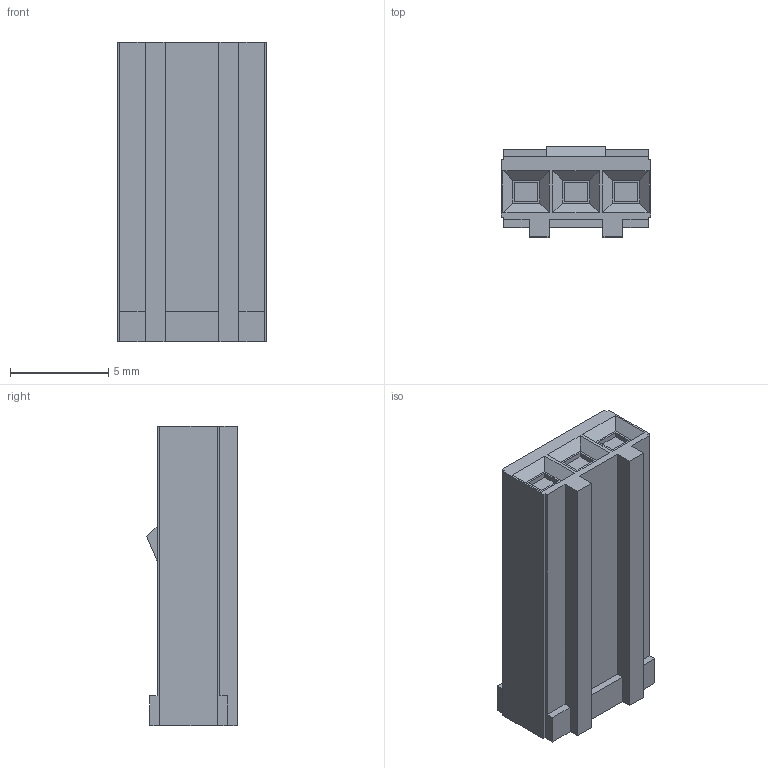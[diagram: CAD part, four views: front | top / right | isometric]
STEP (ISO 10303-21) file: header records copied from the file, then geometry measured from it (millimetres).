
FILE_DESCRIPTION((''),'2;1');
FILE_NAME('C-102241-1','2024-11-15T00:27:26',('workeradm'),('TE Connectivity Ltd.'),'CREO PARAMETRIC BY PTC INC, 2021072','CREO PARAMETRIC BY PTC INC, 2021072','');
FILE_SCHEMA(('AUTOMOTIVE_DESIGN { 1 0 10303 214 1 1 1 1 }'));
Length unit declared in the file: millimetre
Products named in the file (1): C-102241-1
Bounding box: 7.62 x 4.62 x 15.24 mm (x, y, z)
Volume: 383.9 mm3; surface area: 496.5 mm2
Topology: 1 solids, 1 shells, 94 faces, 237 edges, 158 vertices
Faces by surface type: plane 94
Entity records: 2937 total; most frequent: CARTESIAN_POINT 491, ORIENTED_EDGE 474, DIRECTION 425, VECTOR 237, LINE 237, EDGE_CURVE 237, VERTEX_POINT 158, COLOUR_RGB 126
